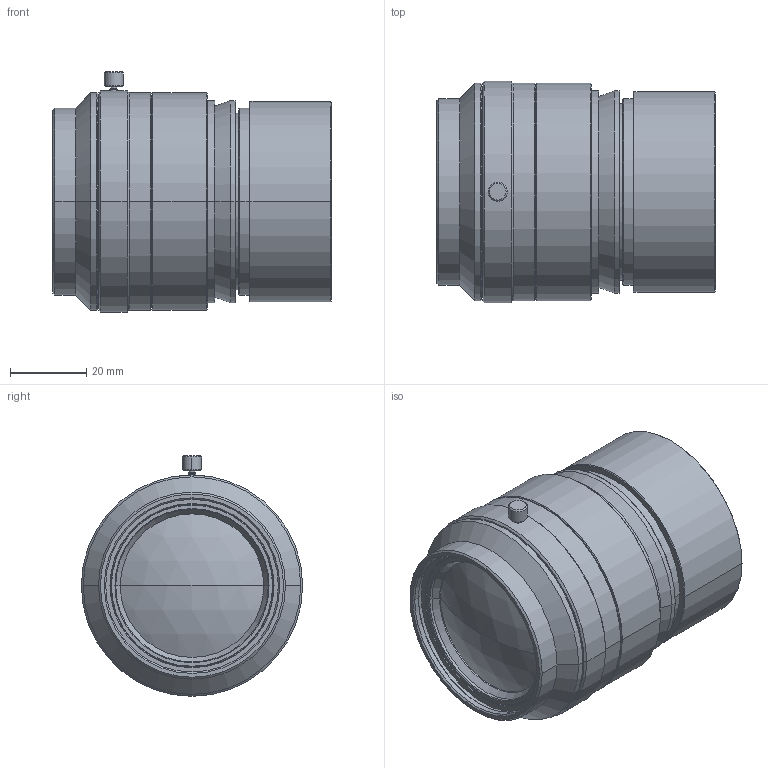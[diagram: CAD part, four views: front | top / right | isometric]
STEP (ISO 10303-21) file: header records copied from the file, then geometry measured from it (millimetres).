
FILE_DESCRIPTION (( 'STEP AP203' ), '1' );
FILE_NAME ('VS-L12035-1_V.STEP', '2015-11-10T00:16:46', ( '' ), ( '' ), 'SwSTEP 2.0', 'SolidWorks 2015', '' );
FILE_SCHEMA (( 'CONFIG_CONTROL_DESIGN' ));
Length unit declared in the file: millimetre
Products named in the file (1): VS-L12035-1_V
Bounding box: 72.99 x 58 x 63.05 mm (x, y, z)
Volume: 155451.3 mm3; surface area: 20625.7 mm2
Topology: 1 solids, 1 shells, 119 faces, 236 edges, 136 vertices
Faces by surface type: cone 58, cylinder 40, plane 17, sphere 4
Entity records: 3159 total; most frequent: DIRECTION 610, CARTESIAN_POINT 524, ORIENTED_EDGE 472, AXIS2_PLACEMENT_3D 256, EDGE_CURVE 236, CIRCLE 136, EDGE_LOOP 136, VERTEX_POINT 136
